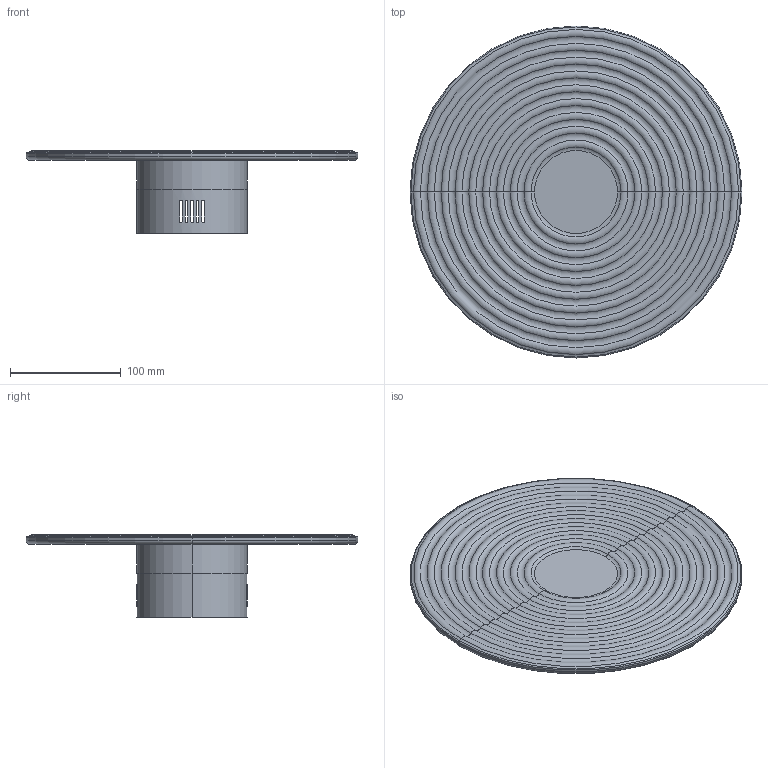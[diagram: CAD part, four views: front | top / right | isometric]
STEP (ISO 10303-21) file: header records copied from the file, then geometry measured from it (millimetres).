
FILE_DESCRIPTION (( 'STEP AP203' ), '1' );
FILE_NAME ('CLIP_A1199.STEP', '2023-08-22T06:57:02', ( '' ), ( '' ), 'SwSTEP 2.0', 'SolidWorks 2018', '' );
FILE_SCHEMA (( 'CONFIG_CONTROL_DESIGN' ));
Length unit declared in the file: millimetre
Products named in the file (1): CLIP_A1199
Bounding box: 300 x 300 x 75 mm (x, y, z)
Volume: 793718.9 mm3; surface area: 216850.4 mm2
Topology: 4 solids, 4 shells, 142 faces, 358 edges, 224 vertices
Faces by surface type: cylinder 52, plane 48, torus 42
Entity records: 4947 total; most frequent: CARTESIAN_POINT 1461, ORIENTED_EDGE 716, DIRECTION 710, EDGE_CURVE 358, AXIS2_PLACEMENT_3D 289, VERTEX_POINT 224, EDGE_LOOP 164, CIRCLE 146
